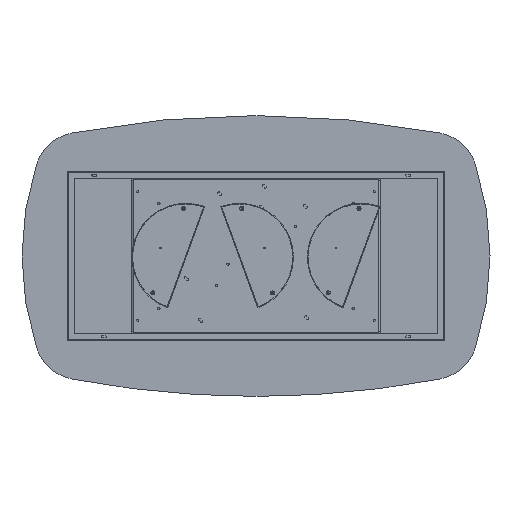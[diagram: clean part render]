
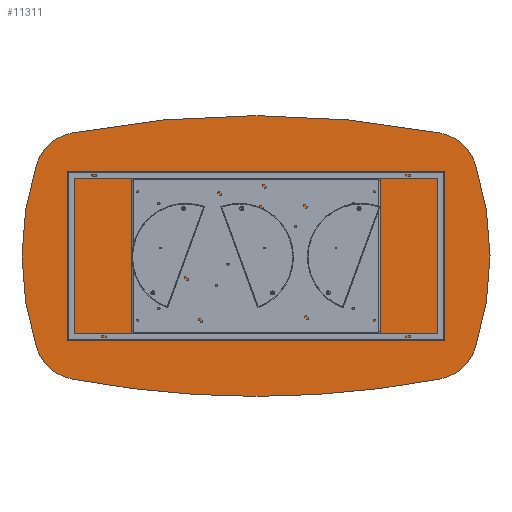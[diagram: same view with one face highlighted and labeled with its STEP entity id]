
A CAD part, front view. The second image highlights one B-rep face of the part: STEP entity #11311.
In plain terms, the highlighted planar face has unit normal (0, -1, 0).
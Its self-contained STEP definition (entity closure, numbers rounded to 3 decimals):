
#232 = DIRECTION ( 'NONE',  ( 0., 1., 0. ) ) ;
#526 = CARTESIAN_POINT ( 'NONE',  ( -937.639, 0., 391.646 ) ) ;
#576 = DIRECTION ( 'NONE',  ( 0., 0., 1. ) ) ;
#714 = CARTESIAN_POINT ( 'NONE',  ( 784.906, 0., 526.006 ) ) ;
#815 = EDGE_CURVE ( 'NONE', #17470, #4574, #13171, .T. ) ;
#854 = DIRECTION ( 'NONE',  ( 0., -1., 0. ) ) ;
#1035 = CARTESIAN_POINT ( 'NONE',  ( -130.5, 0., 1800. ) ) ;
#1551 = VERTEX_POINT ( 'NONE', #7798 ) ;
#1906 = CIRCLE ( 'NONE', #8900, 4200. ) ;
#2069 = AXIS2_PLACEMENT_3D ( 'NONE', #13597, #854, #576 ) ;
#2493 = DIRECTION ( 'NONE',  ( 0., 1., 0. ) ) ;
#2552 = FACE_OUTER_BOUND ( 'NONE', #16800, .T. ) ;
#3068 = AXIS2_PLACEMENT_3D ( 'NONE', #9557, #12396, #6891 ) ;
#3119 = CIRCLE ( 'NONE', #16772, 200. ) ;
#3463 = CIRCLE ( 'NONE', #12558, 1261. ) ;
#3818 = ORIENTED_EDGE ( 'NONE', *, *, #13160, .F. ) ;
#4029 = DIRECTION ( 'NONE',  ( 0., 0., 1. ) ) ;
#4479 = CARTESIAN_POINT ( 'NONE',  ( 937.639, 0., -391.646 ) ) ;
#4574 = VERTEX_POINT ( 'NONE', #6206 ) ;
#4797 = CARTESIAN_POINT ( 'NONE',  ( -937.639, 0., -391.646 ) ) ;
#4896 = DIRECTION ( 'NONE',  ( 0., 0., 1. ) ) ;
#6001 = VERTEX_POINT ( 'NONE', #4479 ) ;
#6078 = CIRCLE ( 'NONE', #18200, 4200. ) ;
#6204 = AXIS2_PLACEMENT_3D ( 'NONE', #13725, #12586, #9454 ) ;
#6206 = CARTESIAN_POINT ( 'NONE',  ( -784.906, 0., -526.006 ) ) ;
#6437 = AXIS2_PLACEMENT_3D ( 'NONE', #12884, #8904, #12976 ) ;
#6807 = AXIS2_PLACEMENT_3D ( 'NONE', #15623, #10979, #4029 ) ;
#6891 = DIRECTION ( 'NONE',  ( 0., 0., 1. ) ) ;
#7024 = DIRECTION ( 'NONE',  ( 0., 1., 0. ) ) ;
#7062 = VERTEX_POINT ( 'NONE', #714 ) ;
#7337 = EDGE_CURVE ( 'NONE', #17708, #7062, #14886, .T. ) ;
#7562 = DIRECTION ( 'NONE',  ( 0., -1., 0. ) ) ;
#7798 = CARTESIAN_POINT ( 'NONE',  ( 784.906, 0., -526.006 ) ) ;
#8308 = DIRECTION ( 'NONE',  ( 0., 0., 1. ) ) ;
#8494 = DIRECTION ( 'NONE',  ( 0., 1., 0. ) ) ;
#8876 = EDGE_CURVE ( 'NONE', #18421, #4574, #1906, .T. ) ;
#8900 = AXIS2_PLACEMENT_3D ( 'NONE', #17318, #2493, #8308 ) ;
#8904 = DIRECTION ( 'NONE',  ( 0., 1., 0. ) ) ;
#9454 = DIRECTION ( 'NONE',  ( 0., 0., 1. ) ) ;
#9557 = CARTESIAN_POINT ( 'NONE',  ( 747.529, 0., 329.529 ) ) ;
#9820 = DIRECTION ( 'NONE',  ( 0., 0., 1. ) ) ;
#9957 = EDGE_CURVE ( 'NONE', #17470, #14220, #3463, .T. ) ;
#10704 = CIRCLE ( 'NONE', #6437, 1261. ) ;
#10979 = DIRECTION ( 'NONE',  ( 0., -1., 0. ) ) ;
#11302 = DIRECTION ( 'NONE',  ( 0., 0., 1. ) ) ;
#11311 = ADVANCED_FACE ( 'NONE', ( #2552 ), #14042, .F. ) ;
#11584 = ORIENTED_EDGE ( 'NONE', *, *, #12124, .T. ) ;
#11894 = AXIS2_PLACEMENT_3D ( 'NONE', #1035, #7024, #11302 ) ;
#11915 = EDGE_CURVE ( 'NONE', #17708, #6001, #10704, .T. ) ;
#11944 = CIRCLE ( 'NONE', #6204, 4200. ) ;
#12124 = EDGE_CURVE ( 'NONE', #13409, #14220, #3119, .T. ) ;
#12396 = DIRECTION ( 'NONE',  ( 0., -1., 0. ) ) ;
#12558 = AXIS2_PLACEMENT_3D ( 'NONE', #14967, #232, #4896 ) ;
#12560 = ORIENTED_EDGE ( 'NONE', *, *, #815, .T. ) ;
#12586 = DIRECTION ( 'NONE',  ( 0., 1., 0. ) ) ;
#12753 = CARTESIAN_POINT ( 'NONE',  ( 0., 0., -3600. ) ) ;
#12884 = CARTESIAN_POINT ( 'NONE',  ( -261., 0., 0. ) ) ;
#12976 = DIRECTION ( 'NONE',  ( 0., 0., 1. ) ) ;
#13160 = EDGE_CURVE ( 'NONE', #1551, #18421, #11944, .T. ) ;
#13171 = CIRCLE ( 'NONE', #6807, 200. ) ;
#13361 = CARTESIAN_POINT ( 'NONE',  ( -747.529, 0., 329.529 ) ) ;
#13409 = VERTEX_POINT ( 'NONE', #16377 ) ;
#13597 = CARTESIAN_POINT ( 'NONE',  ( 747.529, 0., -329.529 ) ) ;
#13725 = CARTESIAN_POINT ( 'NONE',  ( 0., 0., 3600. ) ) ;
#14042 = PLANE ( 'NONE',  #11894 ) ;
#14202 = CARTESIAN_POINT ( 'NONE',  ( 0., 0., -600. ) ) ;
#14220 = VERTEX_POINT ( 'NONE', #526 ) ;
#14886 = CIRCLE ( 'NONE', #3068, 200. ) ;
#14967 = CARTESIAN_POINT ( 'NONE',  ( 261., 0., 0. ) ) ;
#15115 = ORIENTED_EDGE ( 'NONE', *, *, #11915, .F. ) ;
#15453 = ORIENTED_EDGE ( 'NONE', *, *, #16360, .F. ) ;
#15623 = CARTESIAN_POINT ( 'NONE',  ( -747.529, 0., -329.529 ) ) ;
#15781 = CARTESIAN_POINT ( 'NONE',  ( 937.639, 0., 391.646 ) ) ;
#16295 = DIRECTION ( 'NONE',  ( 0., 0., 1. ) ) ;
#16360 = EDGE_CURVE ( 'NONE', #13409, #7062, #6078, .T. ) ;
#16377 = CARTESIAN_POINT ( 'NONE',  ( -784.906, 0., 526.006 ) ) ;
#16756 = EDGE_CURVE ( 'NONE', #1551, #6001, #18479, .T. ) ;
#16772 = AXIS2_PLACEMENT_3D ( 'NONE', #13361, #7562, #16295 ) ;
#16800 = EDGE_LOOP ( 'NONE', ( #15453, #11584, #18585, #12560, #17128, #3818, #18395, #15115, #17494 ) ) ;
#17128 = ORIENTED_EDGE ( 'NONE', *, *, #8876, .F. ) ;
#17318 = CARTESIAN_POINT ( 'NONE',  ( 0., 0., 3600. ) ) ;
#17470 = VERTEX_POINT ( 'NONE', #4797 ) ;
#17494 = ORIENTED_EDGE ( 'NONE', *, *, #7337, .T. ) ;
#17708 = VERTEX_POINT ( 'NONE', #15781 ) ;
#18200 = AXIS2_PLACEMENT_3D ( 'NONE', #12753, #8494, #9820 ) ;
#18395 = ORIENTED_EDGE ( 'NONE', *, *, #16756, .T. ) ;
#18421 = VERTEX_POINT ( 'NONE', #14202 ) ;
#18479 = CIRCLE ( 'NONE', #2069, 200. ) ;
#18585 = ORIENTED_EDGE ( 'NONE', *, *, #9957, .F. ) ;
